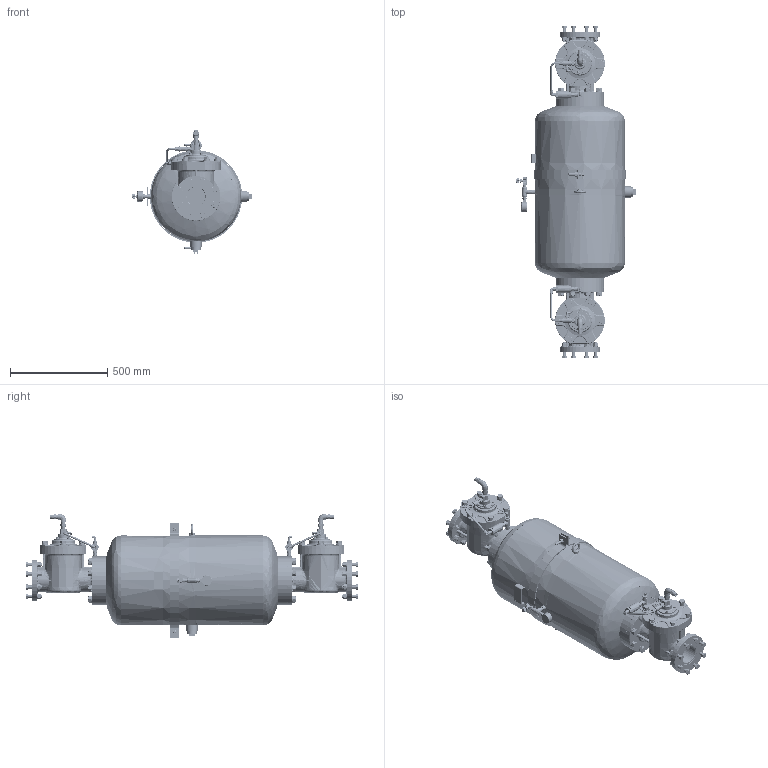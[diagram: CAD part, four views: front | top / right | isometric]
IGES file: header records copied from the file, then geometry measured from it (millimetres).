
Start section: SolidWorks IGES file using analytic representation for surfaces
Global section: file name: V:\WORK\08133\HP 寸法図\blaster\EDB4-130T\test_908000W-000 EDB4-130T_defeature.IGS,  ; native system: SolidWorks 2018; preprocessor: SolidWorks 2018; author: n-udagawa; date: 230208.100614; units: millimetre
Bounding box: 614.71 x 1704.5 x 636 mm (x, y, z)
Surface area: 2884279.6 mm2 (no closed solid volume)
Topology: 0 solids, 0 shells, 4207 faces, 73609 edges, 83523 vertices
Faces by surface type: bspline 2240, revolution 1967
